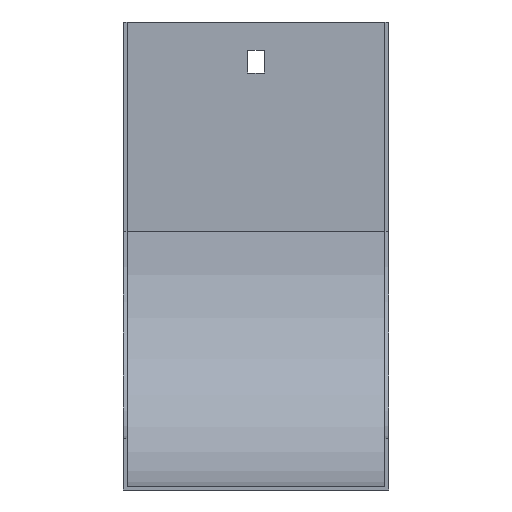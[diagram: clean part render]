
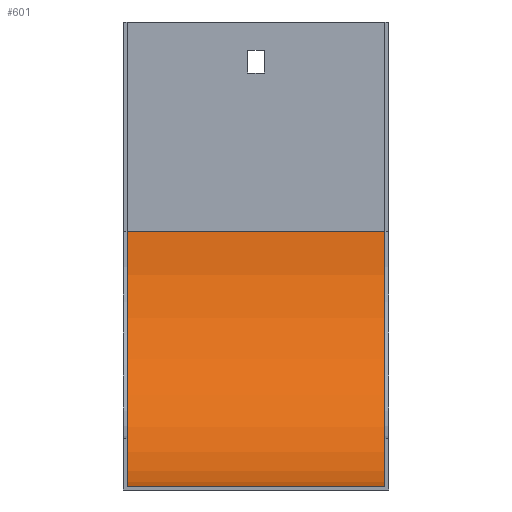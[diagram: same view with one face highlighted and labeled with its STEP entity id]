
A CAD part, front view. The second image highlights one B-rep face of the part: STEP entity #601.
In plain terms, the highlighted cylindrical face has radius 100 mm (diameter 200 mm), a partial arc.
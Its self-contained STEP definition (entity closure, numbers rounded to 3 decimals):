
#6 = VERTEX_POINT ( 'NONE', #524 ) ;
#12 = CARTESIAN_POINT ( 'NONE',  ( -50.5, -101.5, -82. ) ) ;
#35 = VECTOR ( 'NONE', #223, 1000. ) ;
#64 = VERTEX_POINT ( 'NONE', #794 ) ;
#112 = CARTESIAN_POINT ( 'NONE',  ( 52., -101.5, -82. ) ) ;
#148 = ORIENTED_EDGE ( 'NONE', *, *, #508, .T. ) ;
#178 = DIRECTION ( 'NONE',  ( -1., 0., 0. ) ) ;
#191 = DIRECTION ( 'NONE',  ( 0., 0., 1. ) ) ;
#222 = ORIENTED_EDGE ( 'NONE', *, *, #388, .T. ) ;
#223 = DIRECTION ( 'NONE',  ( -1., 0., 0. ) ) ;
#251 = AXIS2_PLACEMENT_3D ( 'NONE', #846, #370, #448 ) ;
#260 = ORIENTED_EDGE ( 'NONE', *, *, #607, .F. ) ;
#277 = DIRECTION ( 'NONE',  ( 1., 0., 0. ) ) ;
#293 = CIRCLE ( 'NONE', #251, 100. ) ;
#349 = CARTESIAN_POINT ( 'NONE',  ( 52., -101.5, -182. ) ) ;
#353 = CIRCLE ( 'NONE', #484, 100. ) ;
#360 = CARTESIAN_POINT ( 'NONE',  ( 52., -1.5, -82. ) ) ;
#370 = DIRECTION ( 'NONE',  ( 1., 0., 0. ) ) ;
#375 = CYLINDRICAL_SURFACE ( 'NONE', #680, 100. ) ;
#388 = EDGE_CURVE ( 'NONE', #800, #6, #821, .T. ) ;
#448 = DIRECTION ( 'NONE',  ( 0., 0., 1. ) ) ;
#481 = ORIENTED_EDGE ( 'NONE', *, *, #671, .F. ) ;
#484 = AXIS2_PLACEMENT_3D ( 'NONE', #12, #277, #191 ) ;
#508 = EDGE_CURVE ( 'NONE', #64, #800, #293, .T. ) ;
#524 = CARTESIAN_POINT ( 'NONE',  ( -50.5, -1.5, -82. ) ) ;
#570 = LINE ( 'NONE', #349, #647 ) ;
#601 = ADVANCED_FACE ( 'NONE', ( #717 ), #375, .F. ) ;
#604 = CARTESIAN_POINT ( 'NONE',  ( -50.5, -101.5, -182. ) ) ;
#607 = EDGE_CURVE ( 'NONE', #770, #6, #353, .T. ) ;
#647 = VECTOR ( 'NONE', #823, 1000. ) ;
#651 = DIRECTION ( 'NONE',  ( 0., 0., 1. ) ) ;
#671 = EDGE_CURVE ( 'NONE', #64, #770, #570, .T. ) ;
#680 = AXIS2_PLACEMENT_3D ( 'NONE', #112, #178, #651 ) ;
#717 = FACE_OUTER_BOUND ( 'NONE', #818, .T. ) ;
#770 = VERTEX_POINT ( 'NONE', #604 ) ;
#794 = CARTESIAN_POINT ( 'NONE',  ( 50.5, -101.5, -182. ) ) ;
#800 = VERTEX_POINT ( 'NONE', #801 ) ;
#801 = CARTESIAN_POINT ( 'NONE',  ( 50.5, -1.5, -82. ) ) ;
#818 = EDGE_LOOP ( 'NONE', ( #260, #481, #148, #222 ) ) ;
#821 = LINE ( 'NONE', #360, #35 ) ;
#823 = DIRECTION ( 'NONE',  ( -1., 0., 0. ) ) ;
#846 = CARTESIAN_POINT ( 'NONE',  ( 50.5, -101.5, -82. ) ) ;
